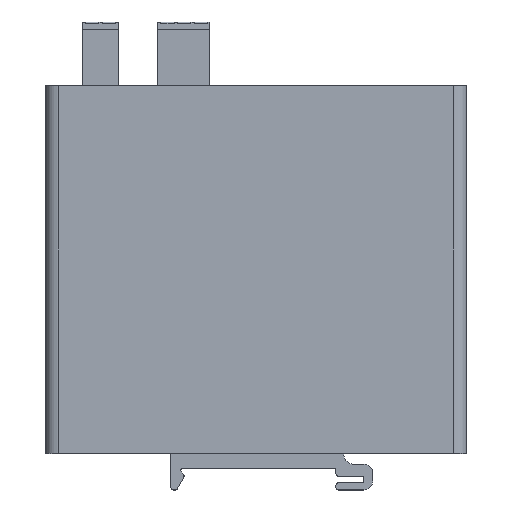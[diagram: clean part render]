
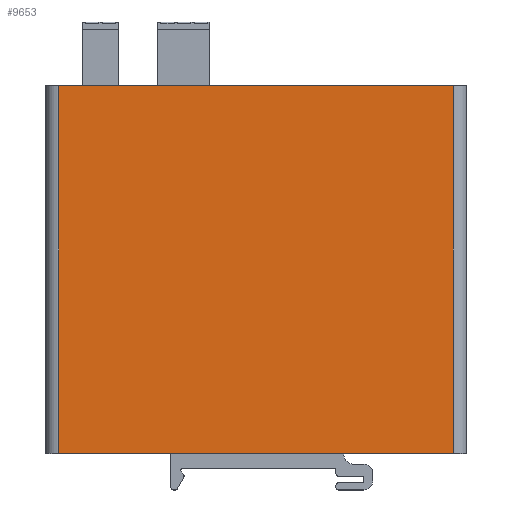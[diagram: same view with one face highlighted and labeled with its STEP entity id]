
A CAD part, top view. The second image highlights one B-rep face of the part: STEP entity #9653.
In plain terms, the highlighted planar face has unit normal (0, 0, 1).
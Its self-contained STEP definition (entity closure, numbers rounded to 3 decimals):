
#25=DIRECTION('',(0.,1.,0.));
#26=VECTOR('',#25,83.);
#27=CARTESIAN_POINT('',(44.5,-43.,17.5));
#28=LINE('',#27,#26);
#34=DIRECTION('',(-1.,0.,0.));
#35=VECTOR('',#34,89.);
#36=CARTESIAN_POINT('',(44.5,40.,17.5));
#37=LINE('',#36,#35);
#1921=DIRECTION('',(1.,0.,0.));
#1922=VECTOR('',#1921,89.);
#1923=CARTESIAN_POINT('',(-44.5,-43.,17.5));
#1924=LINE('',#1923,#1922);
#1941=DIRECTION('',(0.,-1.,0.));
#1942=VECTOR('',#1941,83.);
#1943=CARTESIAN_POINT('',(-44.5,40.,17.5));
#1944=LINE('',#1943,#1942);
#6465=CARTESIAN_POINT('',(44.5,40.,17.5));
#6466=VERTEX_POINT('',#6465);
#6467=CARTESIAN_POINT('',(44.5,-43.,17.5));
#6468=VERTEX_POINT('',#6467);
#6469=CARTESIAN_POINT('',(-44.5,40.,17.5));
#6470=VERTEX_POINT('',#6469);
#7387=CARTESIAN_POINT('',(-44.5,-43.,17.5));
#7388=VERTEX_POINT('',#7387);
#9640=CARTESIAN_POINT('',(0.,0.,17.5));
#9641=DIRECTION('',(0.,0.,1.));
#9642=DIRECTION('',(1.,0.,0.));
#9643=AXIS2_PLACEMENT_3D('',#9640,#9641,#9642);
#9644=PLANE('',#9643);
#9645=ORIENTED_EDGE('',*,*,#8625,.F.);
#9647=ORIENTED_EDGE('',*,*,#9646,.F.);
#9649=ORIENTED_EDGE('',*,*,#9648,.F.);
#9650=ORIENTED_EDGE('',*,*,#8636,.F.);
#9651=EDGE_LOOP('',(#9645,#9647,#9649,#9650));
#9652=FACE_OUTER_BOUND('',#9651,.F.);
#8625=EDGE_CURVE('',#6468,#6466,#28,.T.);
#8636=EDGE_CURVE('',#6466,#6470,#37,.T.);
#9646=EDGE_CURVE('',#7388,#6468,#1924,.T.);
#9648=EDGE_CURVE('',#6470,#7388,#1944,.T.);
#9653=ADVANCED_FACE('',(#9652),#9644,.T.);
